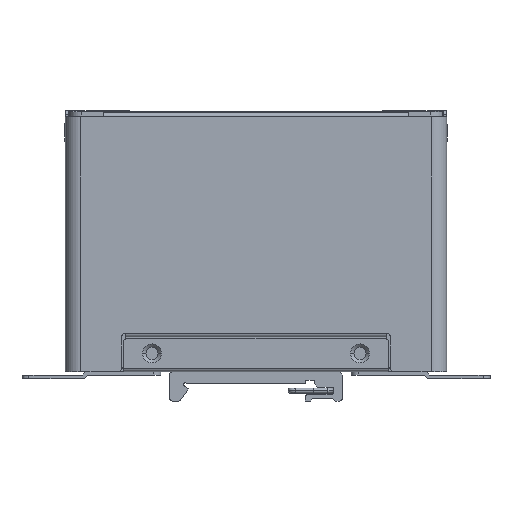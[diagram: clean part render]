
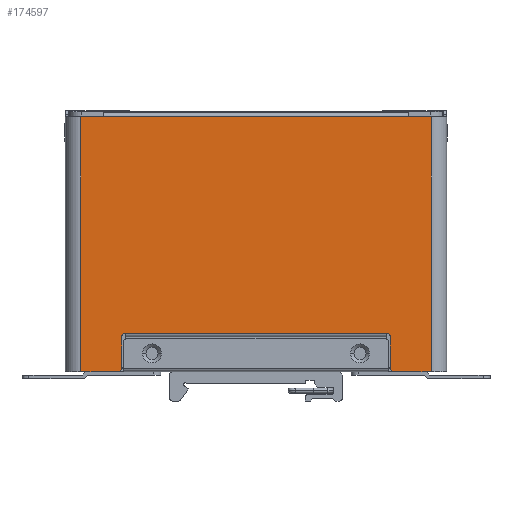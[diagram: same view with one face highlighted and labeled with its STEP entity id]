
A CAD part, front view. The second image highlights one B-rep face of the part: STEP entity #174597.
In plain terms, the highlighted planar face has unit normal (0, -1, 0).
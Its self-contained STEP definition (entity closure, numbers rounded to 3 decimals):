
#169167=DIRECTION('',(0.,0.,1.));
#169168=VECTOR('',#169167,73.5);
#169169=CARTESIAN_POINT('',(88.2,-22.25,-77.469));
#169170=LINE('',#169169,#169168);
#169180=CARTESIAN_POINT('',(178.45,-22.25,-76.469));
#169181=DIRECTION('',(0.,-1.,0.));
#169182=DIRECTION('',(-1.,0.,0.));
#169183=AXIS2_PLACEMENT_3D('',#169180,#169181,#169182);
#169185=DIRECTION('',(0.,0.,1.));
#169186=VECTOR('',#169185,9.);
#169187=CARTESIAN_POINT('',(177.45,-22.25,-76.469));
#169188=LINE('',#169187,#169186);
#169189=DIRECTION('',(0.,0.,1.));
#169190=VECTOR('',#169189,9.);
#169191=CARTESIAN_POINT('',(99.95,-22.25,-76.469));
#169192=LINE('',#169191,#169190);
#169193=CARTESIAN_POINT('',(98.95,-22.25,-76.469));
#169194=DIRECTION('',(0.,-1.,0.));
#169195=DIRECTION('',(0.,0.,-1.));
#169196=AXIS2_PLACEMENT_3D('',#169193,#169194,#169195);
#169198=DIRECTION('',(1.,0.,0.));
#169199=VECTOR('',#169198,10.75);
#169200=CARTESIAN_POINT('',(88.2,-22.25,-77.469));
#169201=LINE('',#169200,#169199);
#169202=DIRECTION('',(1.,0.,0.));
#169203=VECTOR('',#169202,10.75);
#169204=CARTESIAN_POINT('',(178.45,-22.25,-77.469));
#169205=LINE('',#169204,#169203);
#169258=DIRECTION('',(0.,0.,-1.));
#169259=VECTOR('',#169258,73.5);
#169260=CARTESIAN_POINT('',(189.2,-22.25,-3.969));
#169261=LINE('',#169260,#169259);
#169928=DIRECTION('',(-1.,0.,0.));
#169929=VECTOR('',#169928,6.5);
#169930=CARTESIAN_POINT('',(189.2,-22.25,-3.969));
#169931=LINE('',#169930,#169929);
#169940=DIRECTION('',(1.,0.,0.));
#169941=VECTOR('',#169940,88.);
#169942=CARTESIAN_POINT('',(94.7,-22.25,-3.969));
#169943=LINE('',#169942,#169941);
#169962=DIRECTION('',(-1.,0.,0.));
#169963=VECTOR('',#169962,6.5);
#169964=CARTESIAN_POINT('',(94.7,-22.25,-3.969));
#169965=LINE('',#169964,#169963);
#172281=CARTESIAN_POINT('',(100.95,-22.25,-67.469));
#172282=DIRECTION('',(0.,1.,0.));
#172283=DIRECTION('',(-1.,0.,0.));
#172284=AXIS2_PLACEMENT_3D('',#172281,#172282,#172283);
#172299=DIRECTION('',(-1.,0.,0.));
#172300=VECTOR('',#172299,75.5);
#172301=CARTESIAN_POINT('',(176.45,-22.25,-66.469));
#172302=LINE('',#172301,#172300);
#172321=CARTESIAN_POINT('',(176.45,-22.25,-67.469));
#172322=DIRECTION('',(0.,1.,0.));
#172323=DIRECTION('',(0.,0.,1.));
#172324=AXIS2_PLACEMENT_3D('',#172321,#172322,#172323);
#172784=CARTESIAN_POINT('',(182.7,-22.25,-3.969));
#172785=VERTEX_POINT('',#172784);
#172786=CARTESIAN_POINT('',(94.7,-22.25,-3.969));
#172787=VERTEX_POINT('',#172786);
#172817=CARTESIAN_POINT('',(189.2,-22.25,-77.469));
#172819=VERTEX_POINT('',#172817);
#172825=CARTESIAN_POINT('',(88.2,-22.25,-77.469));
#172827=VERTEX_POINT('',#172825);
#172841=CARTESIAN_POINT('',(189.2,-22.25,-3.969));
#172843=VERTEX_POINT('',#172841);
#172845=CARTESIAN_POINT('',(88.2,-22.25,-3.969));
#172847=VERTEX_POINT('',#172845);
#173356=CARTESIAN_POINT('',(100.95,-22.25,-66.469));
#173357=VERTEX_POINT('',#173356);
#173359=CARTESIAN_POINT('',(99.95,-22.25,-67.469));
#173361=VERTEX_POINT('',#173359);
#173363=CARTESIAN_POINT('',(177.45,-22.25,-67.469));
#173365=VERTEX_POINT('',#173363);
#173366=CARTESIAN_POINT('',(176.45,-22.25,-66.469));
#173367=VERTEX_POINT('',#173366);
#173372=CARTESIAN_POINT('',(177.45,-22.25,-76.469));
#173373=VERTEX_POINT('',#173372);
#173374=CARTESIAN_POINT('',(178.45,-22.25,-77.469));
#173375=VERTEX_POINT('',#173374);
#173396=CARTESIAN_POINT('',(98.95,-22.25,-77.469));
#173397=VERTEX_POINT('',#173396);
#173398=CARTESIAN_POINT('',(99.95,-22.25,-76.469));
#173399=VERTEX_POINT('',#173398);
#174563=CARTESIAN_POINT('',(138.7,-22.25,-40.569));
#174564=DIRECTION('',(0.,-1.,0.));
#174565=DIRECTION('',(-1.,0.,0.));
#174566=AXIS2_PLACEMENT_3D('',#174563,#174564,#174565);
#174567=PLANE('',#174566);
#174569=ORIENTED_EDGE('',*,*,#174568,.F.);
#174571=ORIENTED_EDGE('',*,*,#174570,.T.);
#174573=ORIENTED_EDGE('',*,*,#174572,.F.);
#174575=ORIENTED_EDGE('',*,*,#174574,.T.);
#174577=ORIENTED_EDGE('',*,*,#174576,.F.);
#174579=ORIENTED_EDGE('',*,*,#174578,.F.);
#174581=ORIENTED_EDGE('',*,*,#174580,.F.);
#174583=ORIENTED_EDGE('',*,*,#174582,.F.);
#174584=ORIENTED_EDGE('',*,*,#174549,.T.);
#174586=ORIENTED_EDGE('',*,*,#174585,.F.);
#174588=ORIENTED_EDGE('',*,*,#174587,.T.);
#174590=ORIENTED_EDGE('',*,*,#174589,.F.);
#174592=ORIENTED_EDGE('',*,*,#174591,.T.);
#174594=ORIENTED_EDGE('',*,*,#174593,.F.);
#174595=EDGE_LOOP('',(#174569,#174571,#174573,#174575,#174577,#174579,#174581,
#174583,#174584,#174586,#174588,#174590,#174592,#174594));
#174596=FACE_OUTER_BOUND('',#174595,.F.);
#174597=ADVANCED_FACE('',(#174596),#174567,.T.);
#169184=CIRCLE('',#169183,1.);
#169197=CIRCLE('',#169196,1.);
#172285=CIRCLE('',#172284,1.);
#172325=CIRCLE('',#172324,1.);
#174549=EDGE_CURVE('',#172827,#172847,#169170,.T.);
#174568=EDGE_CURVE('',#173373,#173375,#169184,.T.);
#174570=EDGE_CURVE('',#173373,#173365,#169188,.T.);
#174572=EDGE_CURVE('',#173367,#173365,#172325,.T.);
#174574=EDGE_CURVE('',#173367,#173357,#172302,.T.);
#174576=EDGE_CURVE('',#173361,#173357,#172285,.T.);
#174578=EDGE_CURVE('',#173399,#173361,#169192,.T.);
#174580=EDGE_CURVE('',#173397,#173399,#169197,.T.);
#174582=EDGE_CURVE('',#172827,#173397,#169201,.T.);
#174585=EDGE_CURVE('',#172787,#172847,#169965,.T.);
#174587=EDGE_CURVE('',#172787,#172785,#169943,.T.);
#174589=EDGE_CURVE('',#172843,#172785,#169931,.T.);
#174591=EDGE_CURVE('',#172843,#172819,#169261,.T.);
#174593=EDGE_CURVE('',#173375,#172819,#169205,.T.);
